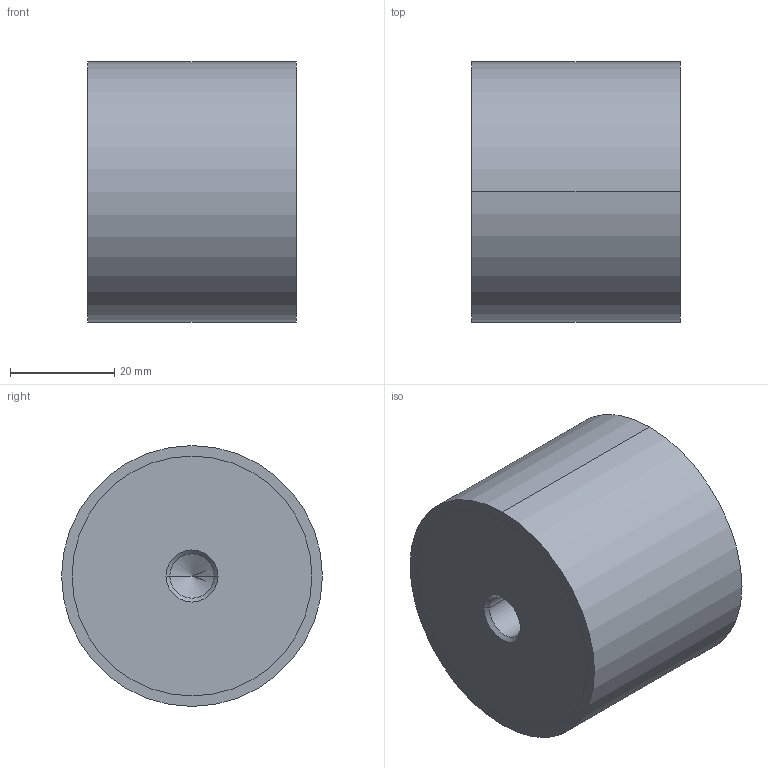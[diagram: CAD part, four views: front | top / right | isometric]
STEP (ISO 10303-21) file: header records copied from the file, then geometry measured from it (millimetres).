
FILE_DESCRIPTION (( 'STEP AP214' ), '1' );
FILE_NAME ('351-50-40-M10-EE-55.step', '2025-07-23T09:48:17', ( '' ), ( '' ), 'SwSTEP 2.0', 'SolidWorks 2022', '' );
FILE_SCHEMA (( 'AUTOMOTIVE_DESIGN' ));
Length unit declared in the file: millimetre
Products named in the file (1): 351-50-40-M10-EE-55
Bounding box: 40 x 50 x 50 mm (x, y, z)
Volume: 77132.2 mm3; surface area: 10805.2 mm2
Topology: 1 solids, 1 shells, 28 faces, 58 edges, 34 vertices
Faces by surface type: cylinder 14, cone 8, plane 6
Entity records: 844 total; most frequent: DIRECTION 144, CARTESIAN_POINT 117, ORIENTED_EDGE 108, AXIS2_PLACEMENT_3D 61, EDGE_CURVE 54, EDGE_LOOP 34, VERTEX_POINT 34, CIRCLE 32
